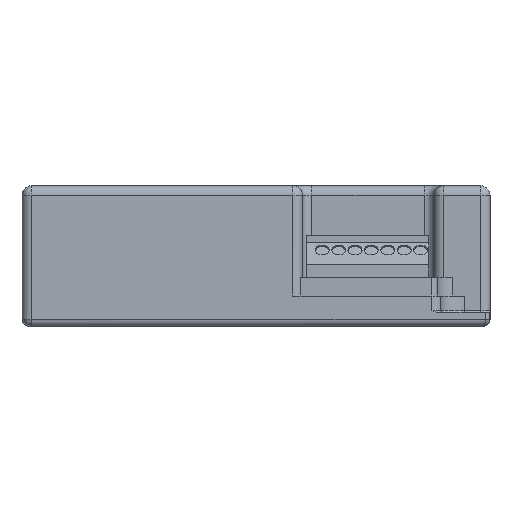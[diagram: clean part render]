
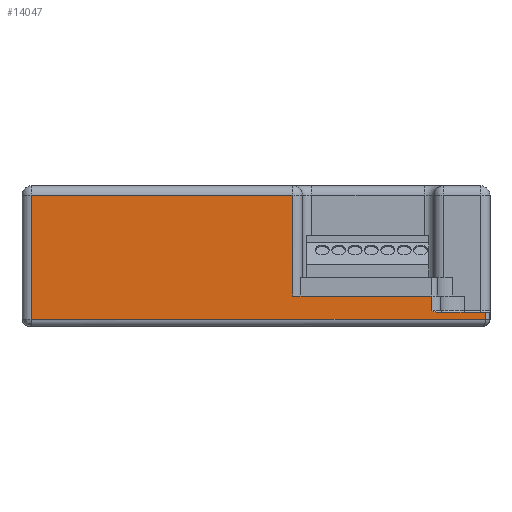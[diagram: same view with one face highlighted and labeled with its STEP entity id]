
A CAD part, front view. The second image highlights one B-rep face of the part: STEP entity #14047.
In plain terms, the highlighted planar face has unit normal (0, -1, 0).
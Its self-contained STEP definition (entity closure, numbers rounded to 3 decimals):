
#481=DIRECTION('',(-1.,0.,0.));
#482=VECTOR('',#481,10.173);
#483=CARTESIAN_POINT('',(49.,-70.,3.));
#484=LINE('',#483,#482);
#912=DIRECTION('',(-1.,0.,0.));
#913=VECTOR('',#912,29.6);
#914=CARTESIAN_POINT('',(37.5,-70.,6.45));
#915=LINE('',#914,#913);
#4085=CARTESIAN_POINT('',(49.,-70.,1.5));
#4090=DIRECTION('',(1.,0.,0.));
#4091=VECTOR('',#4090,55.9);
#4092=CARTESIAN_POINT('',(-48.,-70.,28.));
#4093=LINE('',#4092,#4091);
#4097=DIRECTION('',(0.,0.,1.));
#4098=VECTOR('',#4097,21.55);
#4099=CARTESIAN_POINT('',(7.9,-70.,6.45));
#4100=LINE('',#4099,#4098);
#4104=DIRECTION('',(0.,0.,1.));
#4105=VECTOR('',#4104,3.05);
#4106=CARTESIAN_POINT('',(37.5,-70.,3.4));
#4107=LINE('',#4106,#4105);
#4111=DIRECTION('',(0.,0.,-1.));
#4112=VECTOR('',#4111,1.5);
#4113=CARTESIAN_POINT('',(49.,-70.,3.));
#4114=LINE('',#4113,#4112);
#4118=DIRECTION('',(-1.,0.,0.));
#4119=VECTOR('',#4118,97.);
#4120=CARTESIAN_POINT('',(49.,-70.,1.5));
#4121=LINE('',#4120,#4119);
#4125=DIRECTION('',(0.,0.,-1.));
#4126=VECTOR('',#4125,26.5);
#4127=CARTESIAN_POINT('',(-48.,-70.,28.));
#4128=LINE('',#4127,#4126);
#7481=CARTESIAN_POINT('',(38.827,-70.,3.));
#7482=CARTESIAN_POINT('',(38.751,-70.,3.));
#7483=CARTESIAN_POINT('',(38.595,-70.,3.013));
#7484=CARTESIAN_POINT('',(38.343,-70.,3.068));
#7485=CARTESIAN_POINT('',(38.077,-70.,3.154));
#7486=CARTESIAN_POINT('',(37.797,-70.,3.267));
#7487=CARTESIAN_POINT('',(37.601,-70.,3.355));
#7488=CARTESIAN_POINT('',(37.5,-70.,3.4));
#10627=CARTESIAN_POINT('',(49.,-70.,3.));
#10629=VERTEX_POINT('',#10627);
#10632=VERTEX_POINT('',#4085);
#10780=CARTESIAN_POINT('',(7.9,-70.,6.45));
#10781=CARTESIAN_POINT('',(7.9,-70.,28.));
#10782=VERTEX_POINT('',#10780);
#10783=VERTEX_POINT('',#10781);
#10786=CARTESIAN_POINT('',(-48.,-70.,1.5));
#10788=VERTEX_POINT('',#10786);
#10834=VERTEX_POINT('',#7481);
#10835=VERTEX_POINT('',#7488);
#10866=CARTESIAN_POINT('',(37.5,-70.,6.45));
#10868=VERTEX_POINT('',#10866);
#11508=CARTESIAN_POINT('',(-48.,-70.,28.));
#11509=VERTEX_POINT('',#11508);
#14025=CARTESIAN_POINT('',(-50.,-70.,0.));
#14026=DIRECTION('',(0.,-1.,0.));
#14027=DIRECTION('',(1.,0.,0.));
#14028=AXIS2_PLACEMENT_3D('',#14025,#14026,#14027);
#14029=PLANE('',#14028);
#14031=ORIENTED_EDGE('',*,*,#14030,.T.);
#14033=ORIENTED_EDGE('',*,*,#14032,.F.);
#14034=ORIENTED_EDGE('',*,*,#12228,.F.);
#14036=ORIENTED_EDGE('',*,*,#14035,.F.);
#14038=ORIENTED_EDGE('',*,*,#14037,.F.);
#14039=ORIENTED_EDGE('',*,*,#11878,.F.);
#14040=ORIENTED_EDGE('',*,*,#14011,.T.);
#14042=ORIENTED_EDGE('',*,*,#14041,.T.);
#14044=ORIENTED_EDGE('',*,*,#14043,.F.);
#14045=EDGE_LOOP('',(#14031,#14033,#14034,#14036,#14038,#14039,#14040,#14042,
#14044));
#14046=FACE_OUTER_BOUND('',#14045,.F.);
#7489=B_SPLINE_CURVE_WITH_KNOTS('',3,(#7481,#7482,#7483,#7484,#7485,#7486,#7487,
#7488),.UNSPECIFIED.,.F.,.F.,(4,1,1,1,1,4),(0.,0.2,0.4,0.6,0.8,1.),
.UNSPECIFIED.);
#11878=EDGE_CURVE('',#10629,#10834,#484,.T.);
#12228=EDGE_CURVE('',#10868,#10782,#915,.T.);
#14011=EDGE_CURVE('',#10629,#10632,#4114,.T.);
#14030=EDGE_CURVE('',#11509,#10783,#4093,.T.);
#14032=EDGE_CURVE('',#10782,#10783,#4100,.T.);
#14035=EDGE_CURVE('',#10835,#10868,#4107,.T.);
#14037=EDGE_CURVE('',#10834,#10835,#7489,.T.);
#14041=EDGE_CURVE('',#10632,#10788,#4121,.T.);
#14043=EDGE_CURVE('',#11509,#10788,#4128,.T.);
#14047=ADVANCED_FACE('',(#14046),#14029,.T.);
